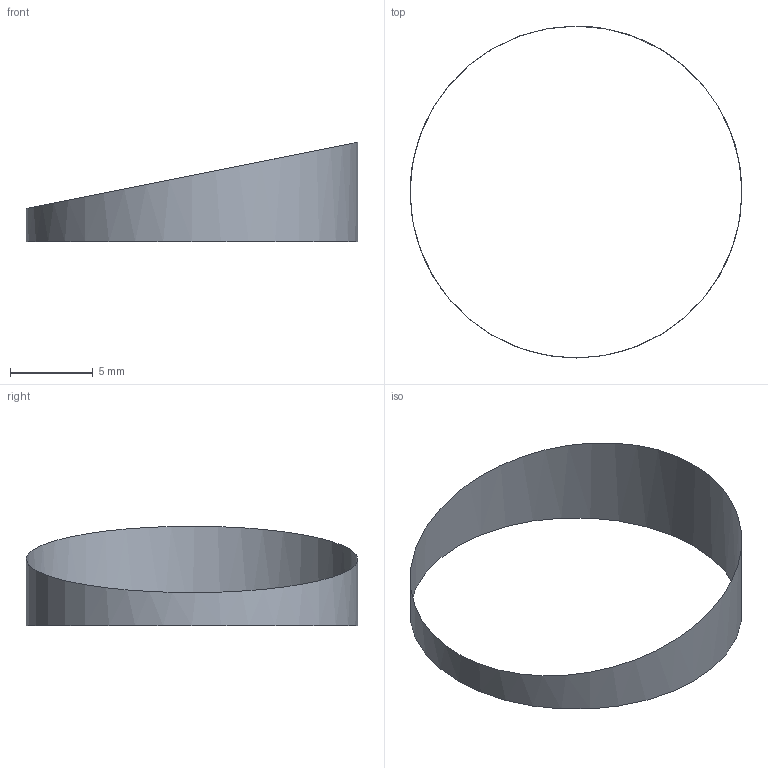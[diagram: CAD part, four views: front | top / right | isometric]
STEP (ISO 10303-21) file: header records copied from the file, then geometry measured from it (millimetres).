
FILE_DESCRIPTION(('BRL-CAD AP214 wavy periodic band fixture'),'2;1');
FILE_NAME('ap214_wavy_periodic_band.stp','2026-07-21T00:00:00',('BRL-CAD'),('BRL-CAD'),'','','');
FILE_SCHEMA(('AUTOMOTIVE_DESIGN { 1 0 10303 214 3 1 1 1 }'));
Length unit declared in the file: millimetre
Products named in the file (1): wavy_periodic_band
Bounding box: 20 x 20 x 6 mm (x, y, z)
Surface area: 251.3 mm2 (no closed solid volume)
Topology: 0 solids, 1 shells, 1 faces, 6 edges, 5 vertices
Faces by surface type: cylinder 1
Full cylindrical faces by diameter (mm): 20 x1
Entity records: 51 total; most frequent: CARTESIAN_POINT 8, VERTEX_POINT 5, EDGE_CURVE 5, ORIENTED_EDGE 5, DIRECTION 4, AXIS2_PLACEMENT_3D 3, EDGE_LOOP 2, ELLIPSE 1
